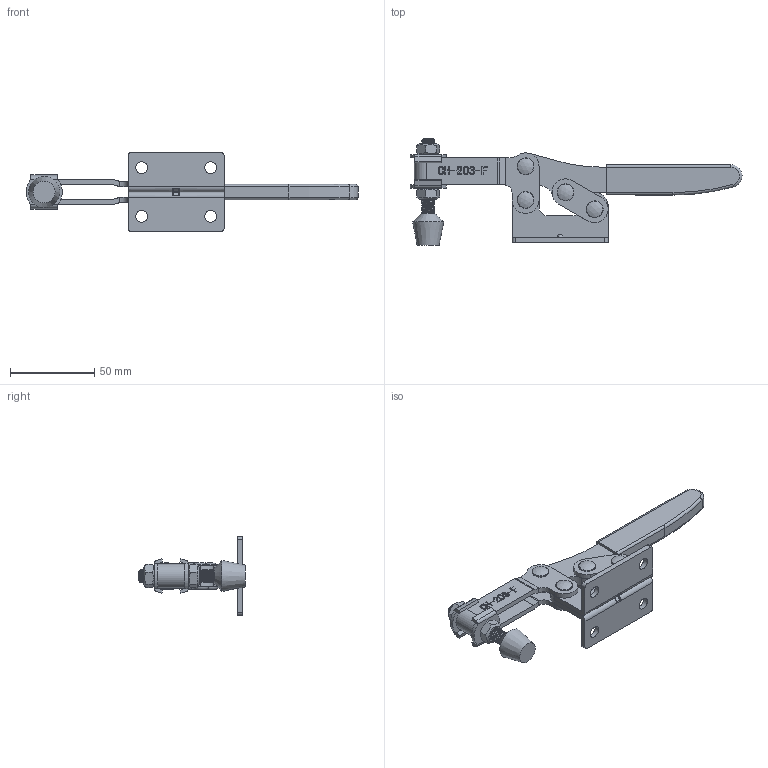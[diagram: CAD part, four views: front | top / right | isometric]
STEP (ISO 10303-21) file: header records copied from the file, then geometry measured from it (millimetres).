
FILE_DESCRIPTION(/* description */ ('STEP AP203'),/* implementation_level */ '2;1');
FILE_NAME(/* name */ 'E:\STRONA\Horizontal toggle clamp\CH-203-F\CH-203-F_ZAMKNIETY.stp',/* time_stamp */ '2019-01-15T13:30:05+01:00',/* author */ ('Admin'),/* organization */ ('Î¢ÈíÖÐ¹ú'),/* preprocessor_version */ 'ST-DEVELOPER v17.2',/* originating_system */ 'Autodesk Inventor 2019',/* authorisation */ '');
FILE_SCHEMA (('AUTOMOTIVE_DESIGN { 1 0 10303 214 3 1 1 }'));
Length unit declared in the file: millimetre
Products named in the file (10): CH-203-F_ZAMKNIETY; 203-F-02; 225-D-06; 203-F-03; 56212-02; 203-F-01; 203-F-03-02; FW516; 203-F-04; 56212
Assembly tree (15 placements, depth 2):
  CH-203-F_ZAMKNIETY
    225-D-06  x4
    203-F-02
    203-F-04  x2
    56212-02  x2
    203-F-03
    FW516  x2
    203-F-01
    203-F-03-02
    56212
Bounding box: 197.12 x 63.5 x 47 mm (x, y, z)
Volume: 53186.2 mm3; surface area: 43433.8 mm2
Topology: 16 solids, 16 shells, 640 faces, 1772 edges, 1199 vertices
Faces by surface type: plane 277, bspline 174, cylinder 145, torus 20, cone 20, sphere 4
Full cylindrical faces by diameter (mm): 2.8 x1, 4.4 x1, 4.833 x4, 6.3 x10, 6.4 x14, 7 x4, 7.92 x32, 8.1 x2, 10 x8
Entity records: 42441 total; most frequent: CARTESIAN_POINT 28797, ORIENTED_EDGE 3110, DIRECTION 2159, EDGE_CURVE 1555, VERTEX_POINT 1048, LINE 843, VECTOR 843, AXIS2_PLACEMENT_3D 658
